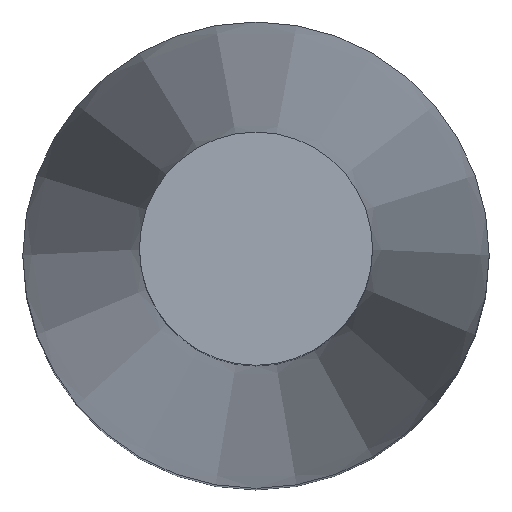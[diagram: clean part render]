
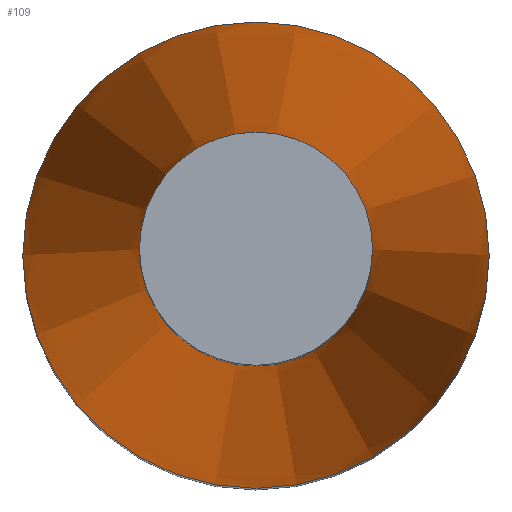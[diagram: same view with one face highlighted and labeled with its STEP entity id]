
A CAD part, top view. The second image highlights one B-rep face of the part: STEP entity #109.
In plain terms, the highlighted conical face has half-angle 2.045 degrees and reference radius 1 mm.
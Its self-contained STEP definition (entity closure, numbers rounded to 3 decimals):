
#43 = CYLINDRICAL_SURFACE('',#44,1.);
#44 = AXIS2_PLACEMENT_3D('',#45,#46,#47);
#45 = CARTESIAN_POINT('',(0.,0.,0.));
#46 = DIRECTION('',(0.,0.,1.));
#47 = DIRECTION('',(1.,0.,-0.));
#60 = VERTEX_POINT('',#61);
#61 = CARTESIAN_POINT('',(1.,0.,4.));
#82 = EDGE_CURVE('',#60,#60,#83,.T.);
#83 = SURFACE_CURVE('',#84,(#89,#96),.PCURVE_S1.);
#84 = CIRCLE('',#85,1.);
#85 = AXIS2_PLACEMENT_3D('',#86,#87,#88);
#86 = CARTESIAN_POINT('',(0.,0.,4.));
#87 = DIRECTION('',(0.,0.,1.));
#88 = DIRECTION('',(1.,0.,-0.));
#89 = PCURVE('',#43,#90);
#90 = DEFINITIONAL_REPRESENTATION('',(#91),#95);
#91 = LINE('',#92,#93);
#92 = CARTESIAN_POINT('',(0.,4.));
#93 = VECTOR('',#94,1.);
#94 = DIRECTION('',(1.,0.));
#95 = ( GEOMETRIC_REPRESENTATION_CONTEXT(2) 
PARAMETRIC_REPRESENTATION_CONTEXT() REPRESENTATION_CONTEXT('2D SPACE',''
  ) );
#96 = PCURVE('',#97,#102);
#97 = CONICAL_SURFACE('',#98,1.,0.036);
#98 = AXIS2_PLACEMENT_3D('',#99,#100,#101);
#99 = CARTESIAN_POINT('',(0.,0.,4.));
#100 = DIRECTION('',(-0.,-0.,-1.));
#101 = DIRECTION('',(1.,0.,-0.));
#102 = DEFINITIONAL_REPRESENTATION('',(#103),#107);
#103 = LINE('',#104,#105);
#104 = CARTESIAN_POINT('',(-0.,-0.));
#105 = VECTOR('',#106,1.);
#106 = DIRECTION('',(-1.,-0.));
#107 = ( GEOMETRIC_REPRESENTATION_CONTEXT(2) 
PARAMETRIC_REPRESENTATION_CONTEXT() REPRESENTATION_CONTEXT('2D SPACE',''
  ) );
#109 = ADVANCED_FACE('',(#110),#97,.T.);
#110 = FACE_BOUND('',#111,.T.);
#111 = EDGE_LOOP('',(#112,#113,#136,#163));
#112 = ORIENTED_EDGE('',*,*,#82,.T.);
#113 = ORIENTED_EDGE('',*,*,#114,.T.);
#114 = EDGE_CURVE('',#60,#115,#117,.T.);
#115 = VERTEX_POINT('',#116);
#116 = CARTESIAN_POINT('',(0.5,0.,18.));
#117 = SEAM_CURVE('',#118,(#122,#129),.PCURVE_S1.);
#118 = LINE('',#119,#120);
#119 = CARTESIAN_POINT('',(1.,0.,4.));
#120 = VECTOR('',#121,1.);
#121 = DIRECTION('',(-0.036,0.,0.999));
#122 = PCURVE('',#97,#123);
#123 = DEFINITIONAL_REPRESENTATION('',(#124),#128);
#124 = LINE('',#125,#126);
#125 = CARTESIAN_POINT('',(-0.,-0.));
#126 = VECTOR('',#127,1.);
#127 = DIRECTION('',(-0.,-1.));
#128 = ( GEOMETRIC_REPRESENTATION_CONTEXT(2) 
PARAMETRIC_REPRESENTATION_CONTEXT() REPRESENTATION_CONTEXT('2D SPACE',''
  ) );
#129 = PCURVE('',#97,#130);
#130 = DEFINITIONAL_REPRESENTATION('',(#131),#135);
#131 = LINE('',#132,#133);
#132 = CARTESIAN_POINT('',(-6.283,-0.));
#133 = VECTOR('',#134,1.);
#134 = DIRECTION('',(-0.,-1.));
#135 = ( GEOMETRIC_REPRESENTATION_CONTEXT(2) 
PARAMETRIC_REPRESENTATION_CONTEXT() REPRESENTATION_CONTEXT('2D SPACE',''
  ) );
#136 = ORIENTED_EDGE('',*,*,#137,.F.);
#137 = EDGE_CURVE('',#115,#115,#138,.T.);
#138 = SURFACE_CURVE('',#139,(#144,#151),.PCURVE_S1.);
#139 = CIRCLE('',#140,0.5);
#140 = AXIS2_PLACEMENT_3D('',#141,#142,#143);
#141 = CARTESIAN_POINT('',(0.,0.,18.));
#142 = DIRECTION('',(0.,0.,1.));
#143 = DIRECTION('',(1.,0.,-0.));
#144 = PCURVE('',#97,#145);
#145 = DEFINITIONAL_REPRESENTATION('',(#146),#150);
#146 = LINE('',#147,#148);
#147 = CARTESIAN_POINT('',(-0.,-14.));
#148 = VECTOR('',#149,1.);
#149 = DIRECTION('',(-1.,-0.));
#150 = ( GEOMETRIC_REPRESENTATION_CONTEXT(2) 
PARAMETRIC_REPRESENTATION_CONTEXT() REPRESENTATION_CONTEXT('2D SPACE',''
  ) );
#151 = PCURVE('',#152,#157);
#152 = CYLINDRICAL_SURFACE('',#153,0.5);
#153 = AXIS2_PLACEMENT_3D('',#154,#155,#156);
#154 = CARTESIAN_POINT('',(0.,0.,18.));
#155 = DIRECTION('',(0.,0.,1.));
#156 = DIRECTION('',(1.,0.,-0.));
#157 = DEFINITIONAL_REPRESENTATION('',(#158),#162);
#158 = LINE('',#159,#160);
#159 = CARTESIAN_POINT('',(0.,0.));
#160 = VECTOR('',#161,1.);
#161 = DIRECTION('',(1.,0.));
#162 = ( GEOMETRIC_REPRESENTATION_CONTEXT(2) 
PARAMETRIC_REPRESENTATION_CONTEXT() REPRESENTATION_CONTEXT('2D SPACE',''
  ) );
#163 = ORIENTED_EDGE('',*,*,#114,.F.);
